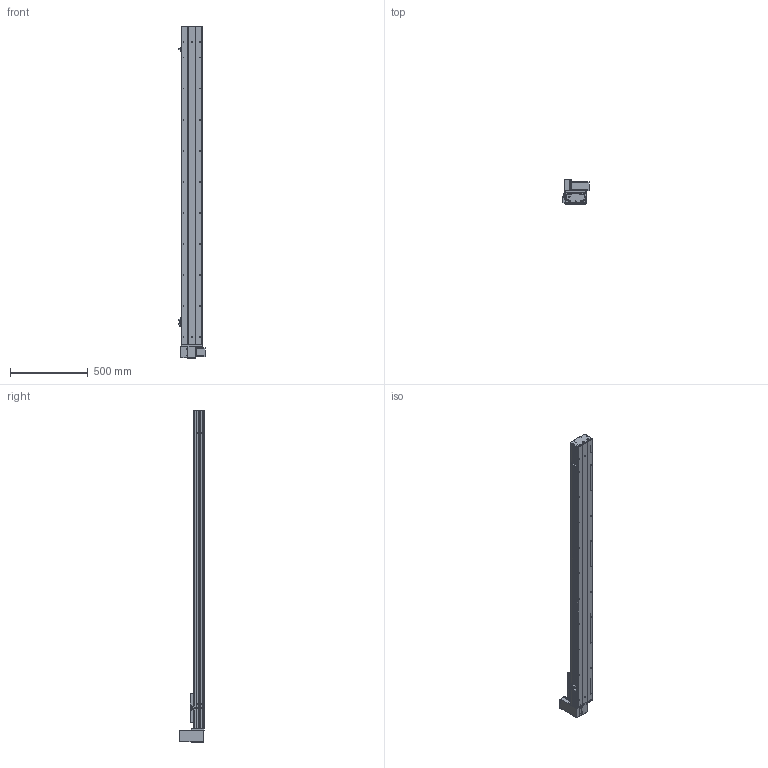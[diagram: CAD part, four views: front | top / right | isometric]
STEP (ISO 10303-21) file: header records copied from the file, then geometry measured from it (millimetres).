
FILE_DESCRIPTION (( 'STEP AP203' ), '1' );
FILE_NAME ('Y135CB-D90-S1750-UR-P400W.STEP', '2020-02-18T04:22:25', ( '微软用户' ), ( '微软中国' ), 'SwSTEP 2.0', 'SolidWorks 2017', '' );
FILE_SCHEMA (( 'CONFIG_CONTROL_DESIGN' ));
Length unit declared in the file: millimetre
Products named in the file (18): C-雄赽釱--; 0B-萇儂楊擘啣; Y10B--々湍喘謫眊--666; san松下电机400不带刹车----; Y10B-耜蚾蟀諉啣----; 5CB --掛极耜裔啣-; 00B-俋欶BM--; C-詩湍揤踡え-陔; Y135CB-耜裔; Y135CB-D90-S1750-UR-P400W; 135CB--詩湍-CE; 135CB---遴掛极.-; Y100-135俋离換覜ん--; 35CB---喘謫眊楊擘啣; Y135C-陔俋离換覜結え-; 0B-埴倛裔啣; 5C--俋欶; 0B-源倛裔啣
Assembly tree (21 placements, depth 2):
  Y135CB-D90-S1750-UR-P400W
    Y135CB-耜裔
    135CB---遴掛极.-
    35CB---喘謫眊楊擘啣
    0B-埴倛裔啣
    0B-源倛裔啣
    0B-萇儂楊擘啣
    san松下电机400不带刹车----
    5CB --掛极耜裔啣-  x2
    C-詩湍揤踡え-陔  x2
    135CB--詩湍-CE
    Y100-135俋离換覜ん--  x3
    Y135C-陔俋离換覜結え-
    5C--俋欶
    C-雄赽釱--
    Y10B--々湍喘謫眊--666
    Y10B-耜蚾蟀諉啣----
    00B-俋欶BM--
Bounding box: 167.5 x 158.7 x 2138 mm (x, y, z)
Volume: 6334079.2 mm3; surface area: 2498137.6 mm2
Topology: 21 solids, 21 shells, 961 faces, 2599 edges, 1722 vertices
Faces by surface type: cylinder 489, plane 456, cone 16
Entity records: 30157 total; most frequent: DIRECTION 5011, CARTESIAN_POINT 4988, ORIENTED_EDGE 4674, EDGE_CURVE 2337, AXIS2_PLACEMENT_3D 1833, VERTEX_POINT 1550, LINE 1345, VECTOR 1345
